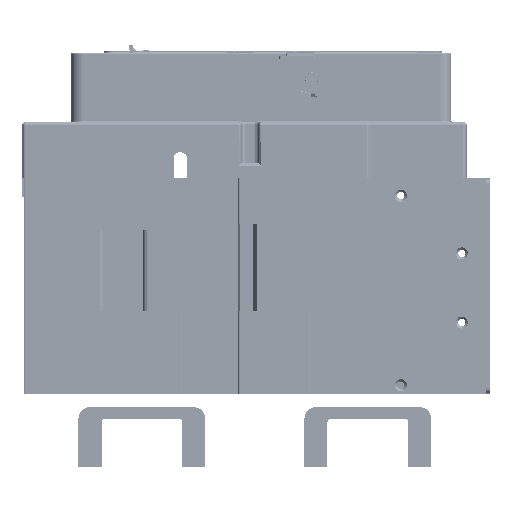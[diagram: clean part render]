
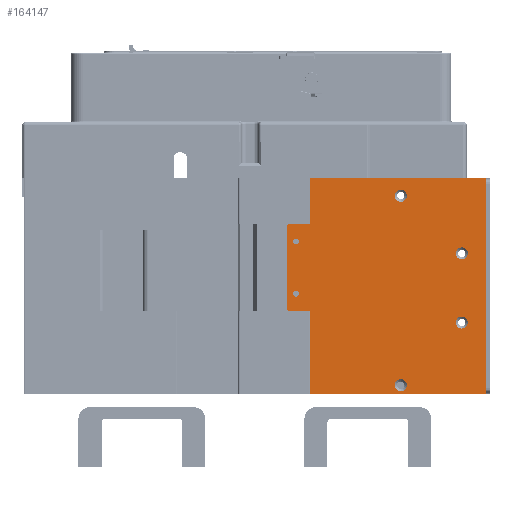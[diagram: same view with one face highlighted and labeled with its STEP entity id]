
A CAD part, left-side view. The second image highlights one B-rep face of the part: STEP entity #164147.
In plain terms, the highlighted planar face has unit normal (-1, 0, 0) as drawn and (1, 0, 0) by its records, which use the part's own axes.
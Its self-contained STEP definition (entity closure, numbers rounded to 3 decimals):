
#163085=DIRECTION('',(0.,1.,0.));
#163086=VECTOR('',#163085,155.);
#163087=CARTESIAN_POINT('',(3.2,3.7,-93.4));
#163088=LINE('',#163087,#163086);
#163205=DIRECTION('',(0.,1.,0.));
#163206=VECTOR('',#163205,155.);
#163207=CARTESIAN_POINT('',(3.2,3.7,93.4));
#163208=LINE('',#163207,#163206);
#163209=CARTESIAN_POINT('',(3.2,158.7,91.4));
#163210=DIRECTION('',(-1.,0.,0.));
#163211=DIRECTION('',(0.,0.,1.));
#163212=AXIS2_PLACEMENT_3D('',#163209,#163210,#163211);
#163214=DIRECTION('',(0.,0.,-1.));
#163215=VECTOR('',#163214,69.8);
#163216=CARTESIAN_POINT('',(3.2,160.7,91.4));
#163217=LINE('',#163216,#163215);
#163218=CARTESIAN_POINT('',(3.2,174.4,19.6));
#163219=DIRECTION('',(-1.,0.,0.));
#163220=DIRECTION('',(0.,0.,1.));
#163221=AXIS2_PLACEMENT_3D('',#163218,#163219,#163220);
#163223=CARTESIAN_POINT('',(3.2,174.4,-51.8));
#163224=DIRECTION('',(-1.,0.,0.));
#163225=DIRECTION('',(0.,1.,0.));
#163226=AXIS2_PLACEMENT_3D('',#163223,#163224,#163225);
#163228=DIRECTION('',(0.,-1.,0.));
#163229=VECTOR('',#163228,13.7);
#163230=CARTESIAN_POINT('',(3.2,174.4,-53.8));
#163231=LINE('',#163230,#163229);
#163232=CARTESIAN_POINT('',(3.2,158.7,-91.4));
#163233=DIRECTION('',(-1.,0.,0.));
#163234=DIRECTION('',(0.,1.,0.));
#163235=AXIS2_PLACEMENT_3D('',#163232,#163233,#163234);
#163237=CARTESIAN_POINT('',(3.2,168.2,6.6));
#163238=DIRECTION('',(1.,0.,0.));
#163239=DIRECTION('',(0.,0.,-1.));
#163240=AXIS2_PLACEMENT_3D('',#163237,#163238,#163239);
#163242=CARTESIAN_POINT('',(3.2,168.2,6.6));
#163243=DIRECTION('',(1.,0.,0.));
#163244=DIRECTION('',(0.,0.,1.));
#163245=AXIS2_PLACEMENT_3D('',#163242,#163243,#163244);
#163247=CARTESIAN_POINT('',(3.2,168.2,-38.8));
#163248=DIRECTION('',(1.,0.,0.));
#163249=DIRECTION('',(0.,0.,-1.));
#163250=AXIS2_PLACEMENT_3D('',#163247,#163248,#163249);
#163252=CARTESIAN_POINT('',(3.2,168.2,-38.8));
#163253=DIRECTION('',(1.,0.,0.));
#163254=DIRECTION('',(0.,0.,1.));
#163255=AXIS2_PLACEMENT_3D('',#163252,#163253,#163254);
#163257=CARTESIAN_POINT('',(3.2,77.4,-78.4));
#163258=DIRECTION('',(1.,0.,0.));
#163259=DIRECTION('',(0.,0.,-1.));
#163260=AXIS2_PLACEMENT_3D('',#163257,#163258,#163259);
#163262=CARTESIAN_POINT('',(3.2,77.4,-78.4));
#163263=DIRECTION('',(1.,0.,0.));
#163264=DIRECTION('',(0.,0.,1.));
#163265=AXIS2_PLACEMENT_3D('',#163262,#163263,#163264);
#163267=CARTESIAN_POINT('',(3.2,77.4,86.));
#163268=DIRECTION('',(1.,0.,0.));
#163269=DIRECTION('',(0.,0.,1.));
#163270=AXIS2_PLACEMENT_3D('',#163267,#163268,#163269);
#163272=CARTESIAN_POINT('',(3.2,77.4,86.));
#163273=DIRECTION('',(1.,0.,0.));
#163274=DIRECTION('',(0.,0.,-1.));
#163275=AXIS2_PLACEMENT_3D('',#163272,#163273,#163274);
#163277=CARTESIAN_POINT('',(3.2,24.5,31.6));
#163278=DIRECTION('',(1.,0.,0.));
#163279=DIRECTION('',(0.,0.,1.));
#163280=AXIS2_PLACEMENT_3D('',#163277,#163278,#163279);
#163282=CARTESIAN_POINT('',(3.2,24.5,31.6));
#163283=DIRECTION('',(1.,0.,0.));
#163284=DIRECTION('',(0.,0.,-1.));
#163285=AXIS2_PLACEMENT_3D('',#163282,#163283,#163284);
#163287=CARTESIAN_POINT('',(3.2,24.5,-28.4));
#163288=DIRECTION('',(1.,0.,0.));
#163289=DIRECTION('',(0.,0.,1.));
#163290=AXIS2_PLACEMENT_3D('',#163287,#163288,#163289);
#163292=CARTESIAN_POINT('',(3.2,24.5,-28.4));
#163293=DIRECTION('',(1.,0.,0.));
#163294=DIRECTION('',(0.,0.,-1.));
#163295=AXIS2_PLACEMENT_3D('',#163292,#163293,#163294);
#163297=DIRECTION('',(0.,0.,-1.));
#163298=VECTOR('',#163297,186.8);
#163299=CARTESIAN_POINT('',(3.2,3.7,93.4));
#163300=LINE('',#163299,#163298);
#163511=DIRECTION('',(0.,-1.,0.));
#163512=VECTOR('',#163511,13.7);
#163513=CARTESIAN_POINT('',(3.2,174.4,21.6));
#163514=LINE('',#163513,#163512);
#163527=DIRECTION('',(0.,0.,1.));
#163528=VECTOR('',#163527,71.4);
#163529=CARTESIAN_POINT('',(3.2,176.4,-51.8));
#163530=LINE('',#163529,#163528);
#163543=DIRECTION('',(0.,0.,1.));
#163544=VECTOR('',#163543,37.6);
#163545=CARTESIAN_POINT('',(3.2,160.7,-91.4));
#163546=LINE('',#163545,#163544);
#163765=CARTESIAN_POINT('',(3.2,3.7,-93.4));
#163766=VERTEX_POINT('',#163765);
#163767=CARTESIAN_POINT('',(3.2,158.7,-93.4));
#163768=VERTEX_POINT('',#163767);
#163817=CARTESIAN_POINT('',(3.2,160.7,-91.4));
#163818=VERTEX_POINT('',#163817);
#163819=CARTESIAN_POINT('',(3.2,3.7,93.4));
#163820=VERTEX_POINT('',#163819);
#163821=CARTESIAN_POINT('',(3.2,158.7,93.4));
#163822=VERTEX_POINT('',#163821);
#163823=CARTESIAN_POINT('',(3.2,160.7,91.4));
#163824=VERTEX_POINT('',#163823);
#163825=CARTESIAN_POINT('',(3.2,160.7,21.6));
#163826=VERTEX_POINT('',#163825);
#163827=CARTESIAN_POINT('',(3.2,174.4,21.6));
#163828=VERTEX_POINT('',#163827);
#163829=CARTESIAN_POINT('',(3.2,176.4,19.6));
#163830=VERTEX_POINT('',#163829);
#163831=CARTESIAN_POINT('',(3.2,176.4,-51.8));
#163832=VERTEX_POINT('',#163831);
#163833=CARTESIAN_POINT('',(3.2,174.4,-53.8));
#163834=VERTEX_POINT('',#163833);
#163835=CARTESIAN_POINT('',(3.2,160.7,-53.8));
#163836=VERTEX_POINT('',#163835);
#163837=CARTESIAN_POINT('',(3.2,168.2,4.));
#163838=CARTESIAN_POINT('',(3.2,168.2,9.2));
#163839=VERTEX_POINT('',#163837);
#163840=VERTEX_POINT('',#163838);
#163841=CARTESIAN_POINT('',(3.2,168.2,-41.4));
#163842=CARTESIAN_POINT('',(3.2,168.2,-36.2));
#163843=VERTEX_POINT('',#163841);
#163844=VERTEX_POINT('',#163842);
#163845=CARTESIAN_POINT('',(3.2,77.4,-83.65));
#163846=CARTESIAN_POINT('',(3.2,77.4,-73.15));
#163847=VERTEX_POINT('',#163845);
#163848=VERTEX_POINT('',#163846);
#163849=CARTESIAN_POINT('',(3.2,77.4,91.25));
#163850=CARTESIAN_POINT('',(3.2,77.4,80.75));
#163851=VERTEX_POINT('',#163849);
#163852=VERTEX_POINT('',#163850);
#163853=CARTESIAN_POINT('',(3.2,24.5,36.85));
#163854=CARTESIAN_POINT('',(3.2,24.5,26.35));
#163855=VERTEX_POINT('',#163853);
#163856=VERTEX_POINT('',#163854);
#163857=CARTESIAN_POINT('',(3.2,24.5,-23.15));
#163858=CARTESIAN_POINT('',(3.2,24.5,-33.65));
#163859=VERTEX_POINT('',#163857);
#163860=VERTEX_POINT('',#163858);
#164082=CARTESIAN_POINT('',(3.2,3.2,-93.4));
#164083=DIRECTION('',(1.,0.,0.));
#164084=DIRECTION('',(0.,1.,0.));
#164085=AXIS2_PLACEMENT_3D('',#164082,#164083,#164084);
#164086=PLANE('',#164085);
#164088=ORIENTED_EDGE('',*,*,#164087,.F.);
#164090=ORIENTED_EDGE('',*,*,#164089,.T.);
#164092=ORIENTED_EDGE('',*,*,#164091,.T.);
#164094=ORIENTED_EDGE('',*,*,#164093,.T.);
#164096=ORIENTED_EDGE('',*,*,#164095,.F.);
#164098=ORIENTED_EDGE('',*,*,#164097,.T.);
#164100=ORIENTED_EDGE('',*,*,#164099,.F.);
#164102=ORIENTED_EDGE('',*,*,#164101,.T.);
#164104=ORIENTED_EDGE('',*,*,#164103,.T.);
#164106=ORIENTED_EDGE('',*,*,#164105,.F.);
#164107=ORIENTED_EDGE('',*,*,#164073,.T.);
#164108=ORIENTED_EDGE('',*,*,#163978,.F.);
#164109=EDGE_LOOP('',(#164088,#164090,#164092,#164094,#164096,#164098,#164100,
#164102,#164104,#164106,#164107,#164108));
#164110=FACE_OUTER_BOUND('',#164109,.F.);
#164112=ORIENTED_EDGE('',*,*,#164111,.T.);
#164114=ORIENTED_EDGE('',*,*,#164113,.T.);
#164115=EDGE_LOOP('',(#164112,#164114));
#164116=FACE_BOUND('',#164115,.F.);
#164118=ORIENTED_EDGE('',*,*,#164117,.T.);
#164120=ORIENTED_EDGE('',*,*,#164119,.T.);
#164121=EDGE_LOOP('',(#164118,#164120));
#164122=FACE_BOUND('',#164121,.F.);
#164124=ORIENTED_EDGE('',*,*,#164123,.T.);
#164126=ORIENTED_EDGE('',*,*,#164125,.T.);
#164127=EDGE_LOOP('',(#164124,#164126));
#164128=FACE_BOUND('',#164127,.F.);
#164130=ORIENTED_EDGE('',*,*,#164129,.T.);
#164132=ORIENTED_EDGE('',*,*,#164131,.T.);
#164133=EDGE_LOOP('',(#164130,#164132));
#164134=FACE_BOUND('',#164133,.F.);
#164136=ORIENTED_EDGE('',*,*,#164135,.T.);
#164138=ORIENTED_EDGE('',*,*,#164137,.T.);
#164139=EDGE_LOOP('',(#164136,#164138));
#164140=FACE_BOUND('',#164139,.F.);
#164142=ORIENTED_EDGE('',*,*,#164141,.T.);
#164144=ORIENTED_EDGE('',*,*,#164143,.T.);
#164145=EDGE_LOOP('',(#164142,#164144));
#164146=FACE_BOUND('',#164145,.F.);
#164147=ADVANCED_FACE('',(#164110,#164116,#164122,#164128,#164134,#164140,
#164146),#164086,.T.);
#163213=CIRCLE('',#163212,2.);
#163222=CIRCLE('',#163221,2.);
#163227=CIRCLE('',#163226,2.);
#163236=CIRCLE('',#163235,2.);
#163241=CIRCLE('',#163240,2.6);
#163246=CIRCLE('',#163245,2.6);
#163251=CIRCLE('',#163250,2.6);
#163256=CIRCLE('',#163255,2.6);
#163261=CIRCLE('',#163260,5.25);
#163266=CIRCLE('',#163265,5.25);
#163271=CIRCLE('',#163270,5.25);
#163276=CIRCLE('',#163275,5.25);
#163281=CIRCLE('',#163280,5.25);
#163286=CIRCLE('',#163285,5.25);
#163291=CIRCLE('',#163290,5.25);
#163296=CIRCLE('',#163295,5.25);
#163978=EDGE_CURVE('',#163766,#163768,#163088,.T.);
#164073=EDGE_CURVE('',#163818,#163768,#163236,.T.);
#164087=EDGE_CURVE('',#163820,#163766,#163300,.T.);
#164089=EDGE_CURVE('',#163820,#163822,#163208,.T.);
#164091=EDGE_CURVE('',#163822,#163824,#163213,.T.);
#164093=EDGE_CURVE('',#163824,#163826,#163217,.T.);
#164095=EDGE_CURVE('',#163828,#163826,#163514,.T.);
#164097=EDGE_CURVE('',#163828,#163830,#163222,.T.);
#164099=EDGE_CURVE('',#163832,#163830,#163530,.T.);
#164101=EDGE_CURVE('',#163832,#163834,#163227,.T.);
#164103=EDGE_CURVE('',#163834,#163836,#163231,.T.);
#164105=EDGE_CURVE('',#163818,#163836,#163546,.T.);
#164111=EDGE_CURVE('',#163839,#163840,#163241,.T.);
#164113=EDGE_CURVE('',#163840,#163839,#163246,.T.);
#164117=EDGE_CURVE('',#163843,#163844,#163251,.T.);
#164119=EDGE_CURVE('',#163844,#163843,#163256,.T.);
#164123=EDGE_CURVE('',#163847,#163848,#163261,.T.);
#164125=EDGE_CURVE('',#163848,#163847,#163266,.T.);
#164129=EDGE_CURVE('',#163851,#163852,#163271,.T.);
#164131=EDGE_CURVE('',#163852,#163851,#163276,.T.);
#164135=EDGE_CURVE('',#163855,#163856,#163281,.T.);
#164137=EDGE_CURVE('',#163856,#163855,#163286,.T.);
#164141=EDGE_CURVE('',#163859,#163860,#163291,.T.);
#164143=EDGE_CURVE('',#163860,#163859,#163296,.T.);
